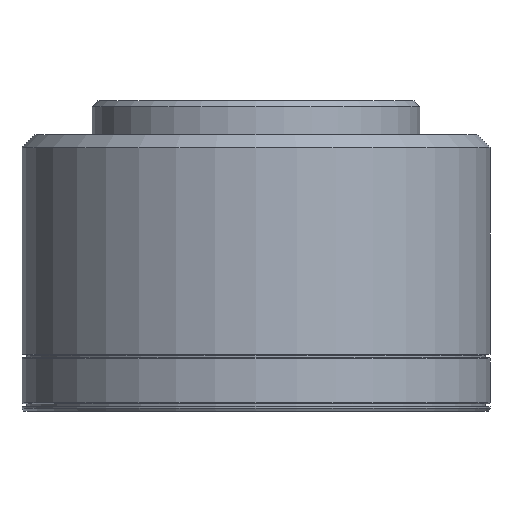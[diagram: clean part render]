
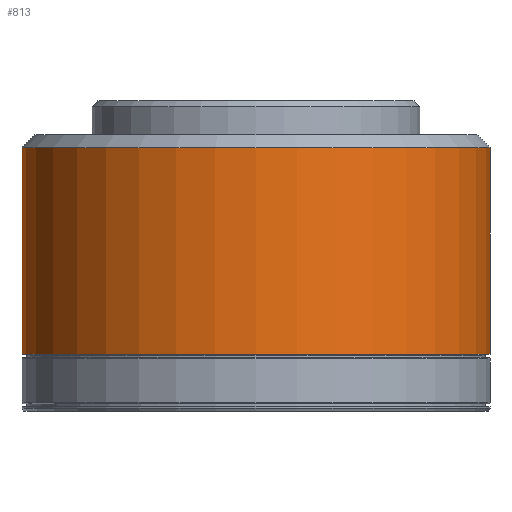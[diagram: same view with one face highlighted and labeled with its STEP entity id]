
A CAD part, front view. The second image highlights one B-rep face of the part: STEP entity #813.
In plain terms, the highlighted cylindrical face has radius 45 mm (diameter 90 mm), a full revolution.
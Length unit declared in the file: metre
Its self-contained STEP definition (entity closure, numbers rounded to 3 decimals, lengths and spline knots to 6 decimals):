
#84=LINE('',#1578,#88);
#85=LINE('',#1582,#89);
#88=VECTOR('',#1292,1.);
#89=VECTOR('',#1295,1.);
#92=ELLIPSE('',#1116,0.06364,0.045);
#93=ELLIPSE('',#1117,0.06364,0.045);
#130=ORIENTED_EDGE('',*,*,#282,.F.);
#131=ORIENTED_EDGE('',*,*,#283,.T.);
#132=ORIENTED_EDGE('',*,*,#284,.T.);
#133=ORIENTED_EDGE('',*,*,#285,.T.);
#134=ORIENTED_EDGE('',*,*,#286,.T.);
#135=ORIENTED_EDGE('',*,*,#280,.T.);
#280=EDGE_CURVE('NONE',#357,#357,#434,.T.);
#282=EDGE_CURVE('NONE',#359,#359,#436,.T.);
#283=EDGE_CURVE('NONE',#360,#361,#92,.T.);
#284=EDGE_CURVE('NONE',#361,#362,#84,.T.);
#285=EDGE_CURVE('NONE',#362,#363,#93,.T.);
#286=EDGE_CURVE('NONE',#363,#360,#85,.F.);
#357=VERTEX_POINT('',#1569);
#359=VERTEX_POINT('',#1574);
#360=VERTEX_POINT('',#1576);
#361=VERTEX_POINT('',#1577);
#362=VERTEX_POINT('',#1579);
#363=VERTEX_POINT('',#1581);
#434=CIRCLE('',#1112,0.045);
#436=CIRCLE('',#1115,0.045);
#507=EDGE_LOOP('',(#130));
#508=EDGE_LOOP('',(#131,#132,#133,#134));
#509=EDGE_LOOP('',(#135));
#651=FACE_BOUND('',#507,.T.);
#652=FACE_BOUND('',#508,.T.);
#653=FACE_BOUND('',#509,.T.);
#785=CYLINDRICAL_SURFACE('',#1114,0.045);
#813=ADVANCED_FACE('NONE',(#651,#652,#653),#785,.T.);
#1112=AXIS2_PLACEMENT_3D('',#1568,#1282,#1283);
#1114=AXIS2_PLACEMENT_3D('',#1572,#1286,#1287);
#1115=AXIS2_PLACEMENT_3D('',#1573,#1288,#1289);
#1116=AXIS2_PLACEMENT_3D('',#1575,#1290,#1291);
#1117=AXIS2_PLACEMENT_3D('',#1580,#1293,#1294);
#1282=DIRECTION('',(0.,0.,-1.));
#1283=DIRECTION('',(0.,1.,0.));
#1286=DIRECTION('',(0.,0.,-1.));
#1287=DIRECTION('',(0.,1.,0.));
#1288=DIRECTION('',(0.,0.,-1.));
#1289=DIRECTION('',(0.,1.,0.));
#1290=DIRECTION('',(0.,-0.707,0.707));
#1291=DIRECTION('',(0.,-0.707,-0.707));
#1292=DIRECTION('',(0.,0.,-1.));
#1293=DIRECTION('',(0.,-0.707,-0.707));
#1294=DIRECTION('',(0.,0.707,-0.707));
#1295=DIRECTION('',(0.,0.,-1.));
#1568=CARTESIAN_POINT('',(0.,1.13895,0.2817));
#1569=CARTESIAN_POINT('',(0.,1.18395,0.2817));
#1572=CARTESIAN_POINT('',(0.,1.13895,0.2685));
#1573=CARTESIAN_POINT('',(0.,1.13895,0.24195));
#1574=CARTESIAN_POINT('',(0.,1.18395,0.24195));
#1575=CARTESIAN_POINT('',(0.,1.13895,0.21955));
#1576=CARTESIAN_POINT('',(0.0174,1.18045,0.26105));
#1577=CARTESIAN_POINT('',(-0.0174,1.18045,0.26105));
#1578=CARTESIAN_POINT('',(-0.0174,1.18045,0.2685));
#1579=CARTESIAN_POINT('',(-0.0174,1.18045,0.24905));
#1580=CARTESIAN_POINT('',(0.,1.13895,0.29055));
#1581=CARTESIAN_POINT('',(0.0174,1.18045,0.24905));
#1582=CARTESIAN_POINT('',(0.0174,1.18045,0.2685));
